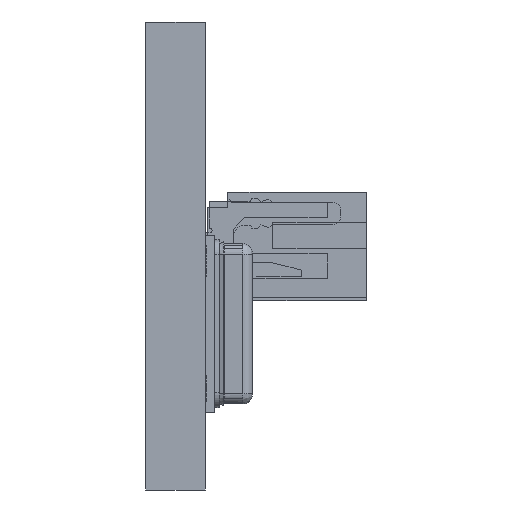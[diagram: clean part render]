
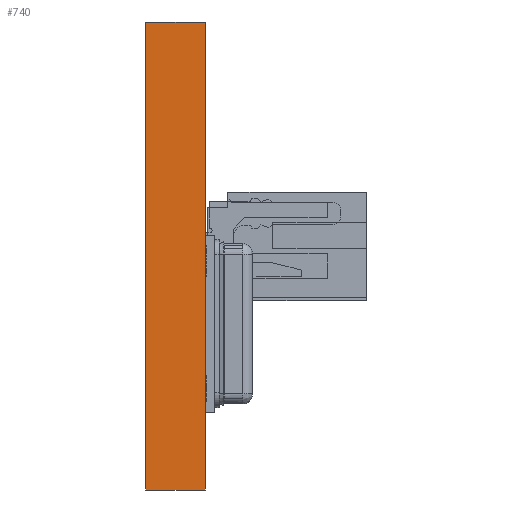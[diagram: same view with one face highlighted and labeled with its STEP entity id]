
A CAD part, left-side view. The second image highlights one B-rep face of the part: STEP entity #740.
In plain terms, the highlighted planar face has unit normal (-1, 0, 0).
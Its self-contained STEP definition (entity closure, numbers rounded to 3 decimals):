
#122=DIRECTION('',(0.,0.,1.));
#123=VECTOR('',#122,12.5);
#124=CARTESIAN_POINT('',(-70.,0.,-7.5));
#125=LINE('',#124,#123);
#246=DIRECTION('',(0.,0.,1.));
#247=VECTOR('',#246,12.5);
#248=CARTESIAN_POINT('',(-70.,1.6,-7.5));
#249=LINE('',#248,#247);
#351=DIRECTION('',(0.,1.,0.));
#352=VECTOR('',#351,1.6);
#353=CARTESIAN_POINT('',(-70.,0.,5.));
#354=LINE('',#353,#352);
#358=DIRECTION('',(0.,1.,0.));
#359=VECTOR('',#358,1.6);
#360=CARTESIAN_POINT('',(-70.,0.,-7.5));
#361=LINE('',#360,#359);
#413=CARTESIAN_POINT('',(-70.,0.,5.));
#415=VERTEX_POINT('',#413);
#417=CARTESIAN_POINT('',(-70.,1.6,5.));
#419=VERTEX_POINT('',#417);
#422=CARTESIAN_POINT('',(-70.,0.,-7.5));
#424=VERTEX_POINT('',#422);
#426=CARTESIAN_POINT('',(-70.,1.6,-7.5));
#428=VERTEX_POINT('',#426);
#729=CARTESIAN_POINT('',(-70.,0.,-7.));
#730=DIRECTION('',(-1.,0.,0.));
#731=DIRECTION('',(0.,0.,1.));
#732=AXIS2_PLACEMENT_3D('',#729,#730,#731);
#733=PLANE('',#732);
#734=ORIENTED_EDGE('',*,*,#698,.F.);
#735=ORIENTED_EDGE('',*,*,#440,.F.);
#736=ORIENTED_EDGE('',*,*,#724,.T.);
#737=ORIENTED_EDGE('',*,*,#516,.T.);
#738=EDGE_LOOP('',(#734,#735,#736,#737));
#739=FACE_OUTER_BOUND('',#738,.F.);
#740=ADVANCED_FACE('',(#739),#733,.T.);
#440=EDGE_CURVE('',#424,#415,#125,.T.);
#516=EDGE_CURVE('',#428,#419,#249,.T.);
#698=EDGE_CURVE('',#415,#419,#354,.T.);
#724=EDGE_CURVE('',#424,#428,#361,.T.);
